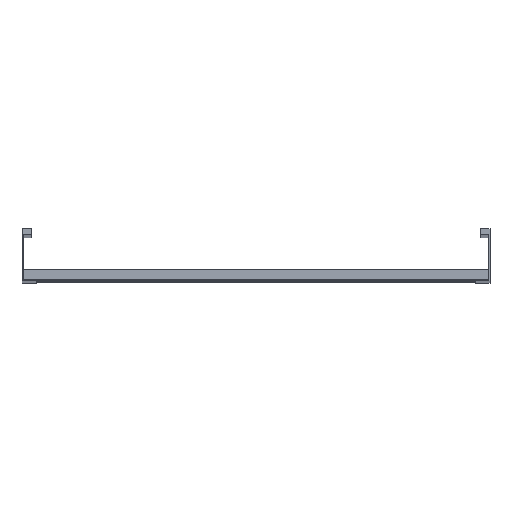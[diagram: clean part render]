
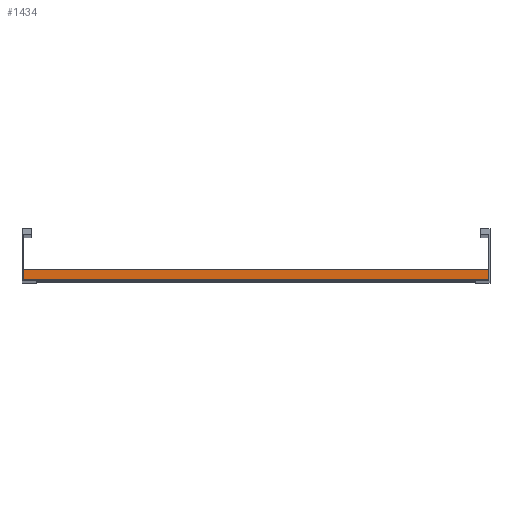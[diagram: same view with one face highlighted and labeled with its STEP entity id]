
A CAD part, top view. The second image highlights one B-rep face of the part: STEP entity #1434.
In plain terms, the highlighted planar face has unit normal (0, 0, 1).
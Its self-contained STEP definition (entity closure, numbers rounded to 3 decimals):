
#19 = VERTEX_POINT ( 'NONE', #898 ) ;
#81 = LINE ( 'NONE', #1432, #1475 ) ;
#88 = VERTEX_POINT ( 'NONE', #776 ) ;
#192 = CARTESIAN_POINT ( 'NONE',  ( -448., 20., 20.25 ) ) ;
#261 = EDGE_CURVE ( 'NONE', #88, #19, #1045, .T. ) ;
#295 = ORIENTED_EDGE ( 'NONE', *, *, #261, .F. ) ;
#325 = DIRECTION ( 'NONE',  ( 0., 0., -1. ) ) ;
#332 = DIRECTION ( 'NONE',  ( -1., 0., 0. ) ) ;
#562 = VERTEX_POINT ( 'NONE', #1151 ) ;
#683 = FACE_OUTER_BOUND ( 'NONE', #861, .T. ) ;
#734 = LINE ( 'NONE', #863, #1696 ) ;
#776 = CARTESIAN_POINT ( 'NONE',  ( 448., 0., 20.25 ) ) ;
#792 = CARTESIAN_POINT ( 'NONE',  ( 448., 0., 20.25 ) ) ;
#809 = VECTOR ( 'NONE', #936, 1000. ) ;
#833 = DIRECTION ( 'NONE',  ( 0., -1., 0. ) ) ;
#857 = DIRECTION ( 'NONE',  ( 0., 1., 0. ) ) ;
#861 = EDGE_LOOP ( 'NONE', ( #1561, #295, #1347, #1416 ) ) ;
#863 = CARTESIAN_POINT ( 'NONE',  ( 448., 20., 20.25 ) ) ;
#864 = PLANE ( 'NONE',  #1197 ) ;
#898 = CARTESIAN_POINT ( 'NONE',  ( -448., 0., 20.25 ) ) ;
#930 = EDGE_CURVE ( 'NONE', #1242, #562, #734, .T. ) ;
#936 = DIRECTION ( 'NONE',  ( -1., 0., 0. ) ) ;
#939 = EDGE_CURVE ( 'NONE', #562, #19, #1386, .T. ) ;
#1034 = VECTOR ( 'NONE', #833, 1000. ) ;
#1045 = LINE ( 'NONE', #792, #809 ) ;
#1151 = CARTESIAN_POINT ( 'NONE',  ( -448., 20., 20.25 ) ) ;
#1197 = AXIS2_PLACEMENT_3D ( 'NONE', #1212, #325, #857 ) ;
#1212 = CARTESIAN_POINT ( 'NONE',  ( 448., 20., 20.25 ) ) ;
#1242 = VERTEX_POINT ( 'NONE', #1293 ) ;
#1286 = DIRECTION ( 'NONE',  ( 0., -1., 0. ) ) ;
#1293 = CARTESIAN_POINT ( 'NONE',  ( 448., 20., 20.25 ) ) ;
#1347 = ORIENTED_EDGE ( 'NONE', *, *, #1625, .F. ) ;
#1386 = LINE ( 'NONE', #192, #1034 ) ;
#1416 = ORIENTED_EDGE ( 'NONE', *, *, #930, .T. ) ;
#1432 = CARTESIAN_POINT ( 'NONE',  ( 448., 20., 20.25 ) ) ;
#1434 = ADVANCED_FACE ( 'NONE', ( #683 ), #864, .F. ) ;
#1475 = VECTOR ( 'NONE', #1286, 1000. ) ;
#1561 = ORIENTED_EDGE ( 'NONE', *, *, #939, .T. ) ;
#1625 = EDGE_CURVE ( 'NONE', #1242, #88, #81, .T. ) ;
#1696 = VECTOR ( 'NONE', #332, 1000. ) ;
